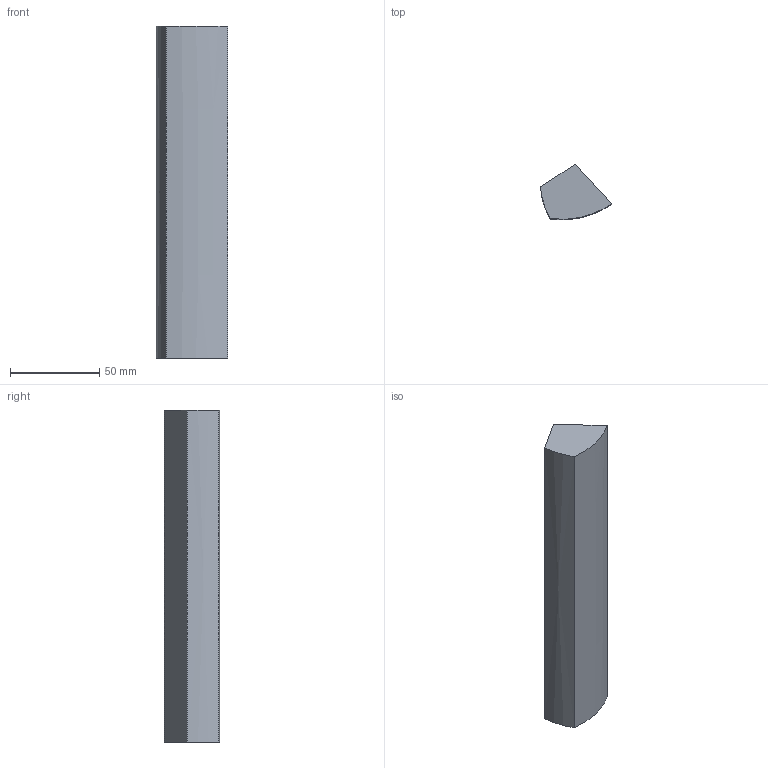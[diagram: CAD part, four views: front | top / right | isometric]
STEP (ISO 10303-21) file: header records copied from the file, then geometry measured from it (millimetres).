
FILE_DESCRIPTION(('Mechanical CAD reference from nasji.com'),'2;1');
FILE_NAME('NASJI.step','',(''),(''),'','NASJI distribution','');
FILE_SCHEMA(('AUTOMOTIVE_DESIGN { 1 0 10303 214 1 1 1 1 }'));
Length unit declared in the file: millimetre
Products named in the file (1): Open CASCADE STEP translator 7.8 222
Bounding box: 39.85 x 30.82 x 185.8 mm (x, y, z)
Volume: 141980.8 mm3; surface area: 21660.4 mm2
Topology: 1 solids, 1 shells, 6 faces, 12 edges, 8 vertices
Faces by surface type: plane 4, extrusion 2
Entity records: 326 total; most frequent: CARTESIAN_POINT 71, DIRECTION 40, VECTOR 30, LINE 28, ORIENTED_EDGE 24, PCURVE 24, DEFINITIONAL_REPRESENTATION 24, EDGE_CURVE 12
